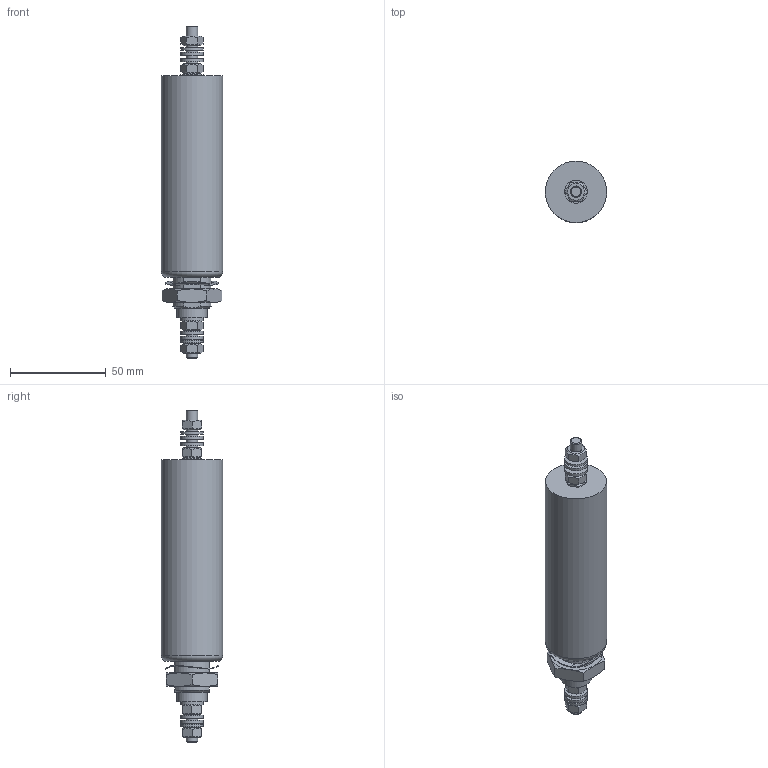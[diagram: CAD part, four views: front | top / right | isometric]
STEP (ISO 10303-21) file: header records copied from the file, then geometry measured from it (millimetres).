
FILE_DESCRIPTION((''),'2;1');
FILE_NAME('P:\Construction\Filter_Marketing\FN\FN7611\FN7611-63-M6\FN7611-63-M6.stp','2014-12-16T08:08:49',('erika.jenzer'),(''),'Autodesk Inventor 2013','Autodesk Inventor 2013','');
FILE_SCHEMA(('AUTOMOTIVE_DESIGN { 1 0 10303 214 1 1 1 1 }'));
Length unit declared in the file: millimetre
Products named in the file (1): FN7611-63-M6
Bounding box: 32 x 32 x 173 mm (x, y, z)
Volume: 95603.9 mm3; surface area: 17939.4 mm2
Topology: 8 solids, 9 shells, 144 faces, 329 edges, 211 vertices
Faces by surface type: plane 82, cylinder 34, cone 27, torus 1
Full cylindrical faces by diameter (mm): 6 x5, 6.4 x5, 12 x5, 15.9 x1, 22 x1, 32 x1
Entity records: 4081 total; most frequent: CARTESIAN_POINT 919, DIRECTION 592, ORIENTED_EDGE 588, EDGE_CURVE 294, AXIS2_PLACEMENT_3D 247, VERTEX_POINT 208, EDGE_LOOP 200, FACE_OUTER_BOUND 144
